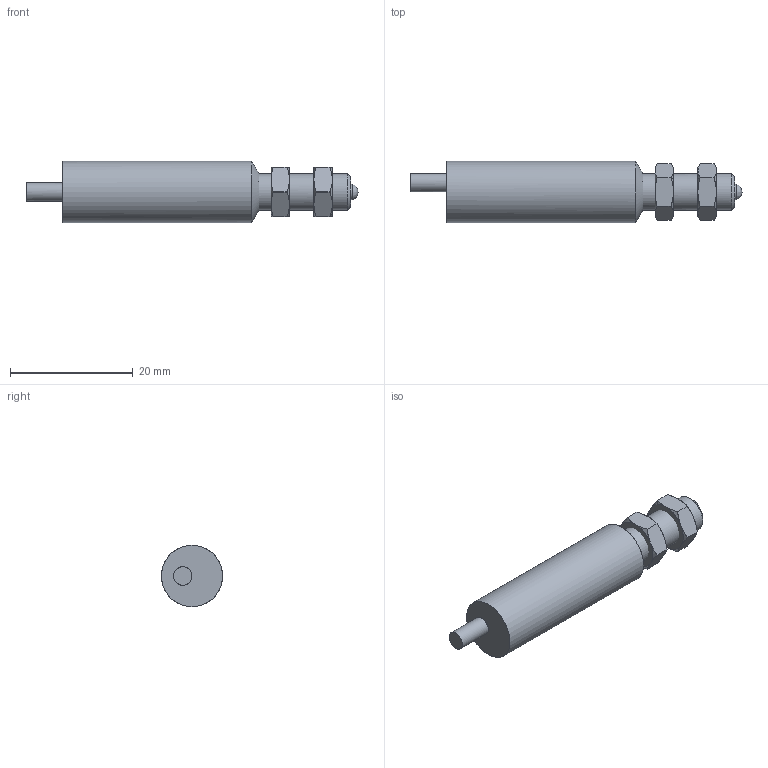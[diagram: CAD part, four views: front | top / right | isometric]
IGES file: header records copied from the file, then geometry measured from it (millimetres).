
Start section: C
Global section: file name: MyCom_Ex.igs; native system:  By UGS Corp.; preprocessor: XPlus GENERIC/IGES 3.0; author: Author; organization: Title; date: 20150326.095856; units: millimetre
Bounding box: 54.2 x 10 x 10 mm (x, y, z)
Surface area: 1862 mm2 (no closed solid volume)
Topology: 0 solids, 0 shells, 56 faces, 255 edges, 254 vertices
Faces by surface type: bspline 56
